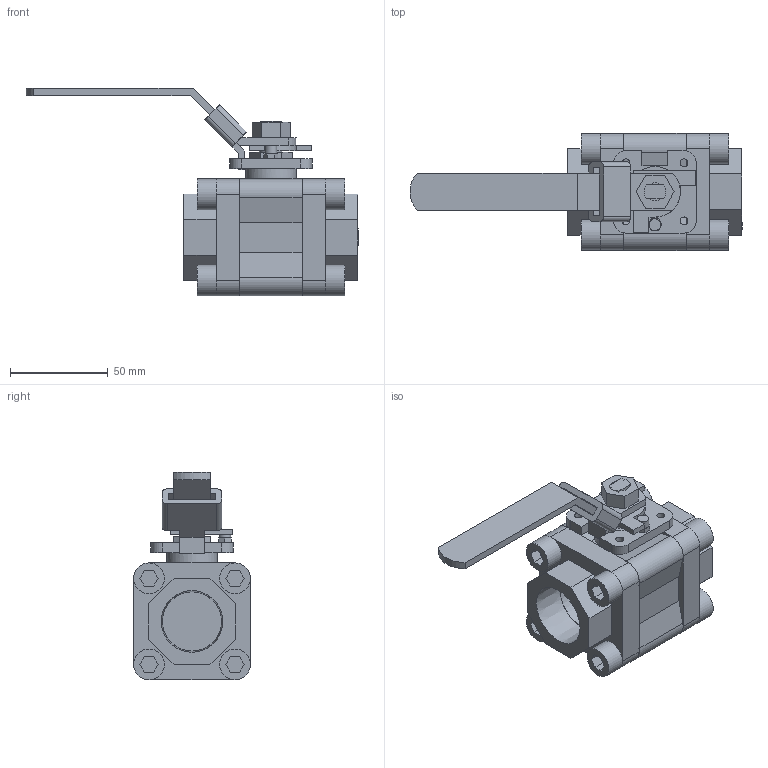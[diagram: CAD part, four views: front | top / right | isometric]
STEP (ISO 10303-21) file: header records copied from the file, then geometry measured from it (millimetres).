
FILE_DESCRIPTION((' '),'2;1');
FILE_NAME('N:\Technical Support\Private\Jomar Valve CAD\Ball Valves\CS and SS\2001N-4B\Threaded\1.0 T-CS[SS]-2001N-4B (601-615 [600-605])FusionCopy.stp.step','2017-09-14T11:20:09',(' '),(' '),' ','ACIS',' ');
FILE_SCHEMA(('CONFIG_CONTROL_DESIGN'));
Length unit declared in the file: inch
Products named in the file (20): N:\Technical Support\Private\Jomar Valve CAD\Ball Valves\CS and SS\2001N-4B\Threaded\1.0 T-CS[SS]-2001N-4B (601-615 [600-605])FusionCopy.stp.step; Body1; Body2; Body3; Body4; Body5; Body6; Body7; Body8; Body9; Body10; Body11; Body12; Body13; Body14; Body15; Body16; Body17; Body18; Body19
Assembly tree (19 placements, depth 2):
  N:\Technical Support\Private\Jomar Valve CAD\Ball Valves\CS and SS\2001N-4B\Threaded\1.0 T-CS[SS]-2001N-4B (601-615 [600-605])FusionCopy.stp.step
    Body1
    Body2
    Body3
    Body4
    Body5
    Body6
    Body7
    Body8
    Body9
    Body10
    Body11
    Body12
    Body13
    Body14
    Body15
    Body16
    Body17
    Body18
    Body19
Bounding box: 169.5 x 59.69 x 106.07 mm (x, y, z)
Volume: 241030.3 mm3; surface area: 67944.9 mm2
Topology: 19 solids, 19 shells, 257 faces, 616 edges, 413 vertices
Faces by surface type: plane 146, bspline 71, cylinder 39, cone 1
Full cylindrical faces by diameter (mm): 4.058 x1, 4.064 x4, 4.877 x1, 6.02 x1, 9.271 x1, 11.811 x1, 15.748 x4, 17.018 x1, 25.908 x2, 30.226 x1
Entity records: 10327 total; most frequent: CARTESIAN_POINT 1680, ORIENTED_EDGE 1168, DIRECTION 1143, EDGE_CURVE 584, VECTOR 475, LINE 475, VERTEX_POINT 405, AXIS2_PLACEMENT_3D 334
